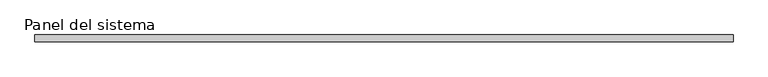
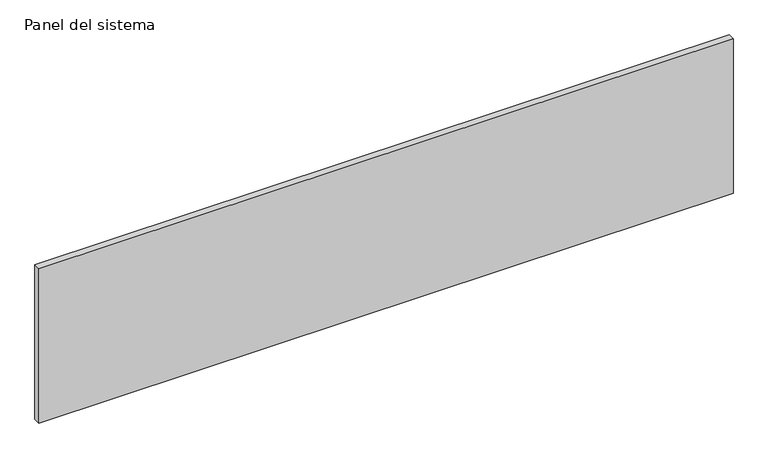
"""IFC4 building model written with IfcOpenShell, lengths in millimetres: plate geometry, Panel del sistema : HIANSA - CHAPA PERFILADA CUBIERTA - MT42 Hor."""

import ifcopenshell
import ifcopenshell.guid

model = None  # the IFC model being written
_history = None  # IfcOwnerHistory: only IFC2X3 demands one
_inside = {}  # id of a spatial element -> (the spatial element, [elements in it])
_under = {}  # id of a project, library or spatial element -> (it, [spatial elements below it])
_declared = {}  # id of a project -> (the project, [libraries it declares])
_typed = {}  # id of a type object -> (the type object, [elements of that type])
_made_of = {}  # id of a material, layer set ... -> (it, [elements and type objects made of it])


def new_model(schema):
    """Start an empty IFC model of exactly this schema.

    Asked for "IFC4X3", IfcOpenShell would pick the latest addendum, in which some entities
    have other attributes; the version numbers below select the first issue.
    IFC2X3 requires an IfcOwnerHistory on every rooted entity: one is made here for all.
    """
    global model, _history
    if schema == "IFC4X3":
        model = ifcopenshell.file(schema_version=(4, 3, 0, 0))
    else:
        model = ifcopenshell.file(schema=schema)
    _inside.clear()
    _under.clear()
    _declared.clear()
    _typed.clear()
    _made_of.clear()
    _history = None
    if model.schema == "IFC2X3":
        org = make("IfcOrganization", Name="unknown")
        user = make(
            "IfcPersonAndOrganization",
            ThePerson=make("IfcPerson", FamilyName="unknown"),
            TheOrganization=org,
        )
        app = make(
            "IfcApplication",
            ApplicationDeveloper=org,
            Version="unknown",
            ApplicationFullName="unknown",
            ApplicationIdentifier="unknown",
        )
        _history = make(
            "IfcOwnerHistory",
            OwningUser=user,
            OwningApplication=app,
            ChangeAction="ADDED",
            CreationDate=0,
        )
    return model


def make(cls, **values):
    """One entity of the class cls with the attributes given. An attribute that is None is left unset."""
    return model.create_entity(
        cls, **{name: value for name, value in values.items() if value is not None}
    )


def rooted(cls, **values):
    """An entity with a GlobalId (a new one), such as an element, a storey or a relation."""
    return make(cls, GlobalId=ifcopenshell.guid.new(), OwnerHistory=_history, **values)


def si_unit(unit_type, name, prefix=None):
    """IfcSIUnit, for example si_unit("LENGTHUNIT", "METRE", prefix="MILLI")."""
    return make("IfcSIUnit", UnitType=unit_type, Prefix=prefix, Name=name)


def assignment(units):
    """IfcUnitAssignment: the units of a project."""
    return None if units is None else make("IfcUnitAssignment", Units=units)


def point(xyz):
    """IfcCartesianPoint."""
    return None if xyz is None else make("IfcCartesianPoint", Coordinates=xyz)


def direction(xyz):
    """IfcDirection."""
    return None if xyz is None else make("IfcDirection", DirectionRatios=xyz)


def frame(location, z_axis=None, x_axis=None):
    """IfcAxis2Placement3D, a coordinate frame: its origin and axes. An axis left out is left unset."""
    return make(
        "IfcAxis2Placement3D",
        Location=point(location),
        Axis=direction(z_axis),
        RefDirection=direction(x_axis),
    )


def origin():
    """The frame at (0, 0, 0) with its axes left unset."""
    return frame((0.0, 0.0, 0.0))


def origin_with_axes():
    """The frame at (0, 0, 0) with the z axis (0, 0, 1) and the x axis (1, 0, 0) written out."""
    return frame((0.0, 0.0, 0.0), z_axis=(0.0, 0.0, 1.0), x_axis=(1.0, 0.0, 0.0))


def place(relative_to, where):
    """IfcLocalPlacement: puts the frame where relative to a parent placement (None: the world)."""
    return make(
        "IfcLocalPlacement", PlacementRelTo=relative_to, RelativePlacement=where
    )


def context(
    kind, dimensions, precision=None, world=None, true_north=None, identifier=None
):
    """IfcGeometricRepresentationContext, for example the 3D "Model" context."""
    return make(
        "IfcGeometricRepresentationContext",
        ContextIdentifier=identifier,
        ContextType=kind,
        CoordinateSpaceDimension=dimensions,
        Precision=precision,
        WorldCoordinateSystem=world,
        TrueNorth=true_north,
    )


def project(units=None, contexts=None):
    """IfcProject with its units and contexts."""
    return rooted(
        "IfcProject",
        Name="project",
        RepresentationContexts=contexts,
        UnitsInContext=assignment(units),
    )


def spatial(cls, under=None, at=None, **own):
    """A site, building, storey or space (cls), placed at a placement, below another one or the project."""
    s = rooted(cls, ObjectPlacement=at, **own)
    if under is not None:
        _under.setdefault(under.id(), (under, []))[1].append(s)
    return s


def polyline(points):
    """IfcPolyline through the points."""
    return make("IfcPolyline", Points=[point(p) for p in points])


def outline(outer, holes=None, kind="AREA"):
    """IfcArbitraryClosedProfileDef: a profile drawn as a closed curve; with holes, ...WithVoids."""
    if holes is None:
        return make("IfcArbitraryClosedProfileDef", ProfileType=kind, OuterCurve=outer)
    return make(
        "IfcArbitraryProfileDefWithVoids",
        ProfileType=kind,
        OuterCurve=outer,
        InnerCurves=holes,
    )


def extrude(swept, where, along, depth):
    """IfcExtrudedAreaSolid: the profile swept, set in the frame where, extruded along a direction by depth."""
    return make(
        "IfcExtrudedAreaSolid",
        SweptArea=swept,
        Position=where,
        ExtrudedDirection=direction(along),
        Depth=depth,
    )


def shape(context_of_items, identifier, shape_type, items):
    """IfcShapeRepresentation: the items that make up one representation, for example the "Body"."""
    return make(
        "IfcShapeRepresentation",
        ContextOfItems=context_of_items,
        RepresentationIdentifier=identifier,
        RepresentationType=shape_type,
        Items=items,
    )


def source(mapping_origin, context_of_items, identifier, shape_type, items):
    """IfcRepresentationMap: a shape defined once, which mapped items show again and again."""
    return make(
        "IfcRepresentationMap",
        MappingOrigin=mapping_origin,
        MappedRepresentation=shape(context_of_items, identifier, shape_type, items),
    )


def transform(
    local_origin,
    x_axis=None,
    y_axis=None,
    z_axis=None,
    scale=None,
    scale2=None,
    scale3=None,
    uniform=True,
):
    """IfcCartesianTransformationOperator3D, or its non-uniform kind. x_axis, y_axis, z_axis: its Axis1, 2, 3."""
    if uniform:
        return make(
            "IfcCartesianTransformationOperator3D",
            Axis1=direction(x_axis),
            Axis2=direction(y_axis),
            LocalOrigin=point(local_origin),
            Scale=scale,
            Axis3=direction(z_axis),
        )
    return make(
        "IfcCartesianTransformationOperator3DnonUniform",
        Axis1=direction(x_axis),
        Axis2=direction(y_axis),
        LocalOrigin=point(local_origin),
        Scale=scale,
        Axis3=direction(z_axis),
        Scale2=scale2,
        Scale3=scale3,
    )


def mapped(mapping_source, mapping_target):
    """IfcMappedItem: shows the shape of a source again, moved by a transform."""
    return make(
        "IfcMappedItem", MappingSource=mapping_source, MappingTarget=mapping_target
    )


def made_of(thing, what):
    """Note that an element or type object is made of a material, layer set ...; save() writes the relation."""
    if what is not None:
        _made_of.setdefault(what.id(), (what, []))[1].append(thing)
    return thing


def element(
    cls,
    number,
    at=None,
    inside=None,
    cuts=None,
    type_object=None,
    material=None,
    context=None,
    identifier="Body",
    shape_type=None,
    held_by="IfcProductDefinitionShape",
    body=None,
    shapes=None,
    **own,
):
    """One element of the class cls, such as IfcWall. Its Tag is "e" and its number.

    at: its placement. inside: the storey or other place that contains it. cuts: it is an
    opening in that element (IfcRelVoidsElement). A single representation is given by context,
    identifier, shape_type and body (its items); several are given by shapes. held_by: the class
    of the entity that holds the representations. save() writes the other relations.
    """
    e = rooted(cls, Tag="e%d" % number, ObjectPlacement=at, **own)
    if body is not None:
        shapes = [shape(context, identifier, shape_type, body)]
    if shapes is not None:
        e.Representation = make(held_by, Representations=shapes)
    if inside is not None:
        _inside.setdefault(inside.id(), (inside, []))[1].append(e)
    if cuts is not None:
        rooted(
            "IfcRelVoidsElement", RelatingBuildingElement=cuts, RelatedOpeningElement=e
        )
    if type_object is not None:
        _typed.setdefault(type_object.id(), (type_object, []))[1].append(e)
    return made_of(e, material)


def aggregate(whole, parts):
    """IfcRelAggregates: a whole, such as a stair, and the parts it consists of."""
    return rooted("IfcRelAggregates", RelatingObject=whole, RelatedObjects=parts)


def save(model, path):
    """Write the relations noted so far, then the file.

    IfcRelAggregates (storeys below a building ...), IfcRelContainedInSpatialStructure (elements
    in a storey), IfcRelDefinesByType, IfcRelAssociatesMaterial and IfcRelDeclares: one each for
    every whole, place, type object, material and project.
    """
    for whole, parts in _under.values():
        aggregate(whole, parts)
    for where, things in _inside.values():
        rooted(
            "IfcRelContainedInSpatialStructure",
            RelatedElements=things,
            RelatingStructure=where,
        )
    for kind, things in _typed.values():
        rooted("IfcRelDefinesByType", RelatedObjects=things, RelatingType=kind)
    for what, things in _made_of.values():
        rooted("IfcRelAssociatesMaterial", RelatedObjects=things, RelatingMaterial=what)
    for by, libraries in _declared.values():
        rooted("IfcRelDeclares", RelatingContext=by, RelatedDefinitions=libraries)
    model.write(path)


def panel_del_sistema_d2d792b8(model_context):
    return source(origin(), model_context, "Body", "SweptSolid", [
        extrude(outline(polyline([(2128.0, -42.0), (-2128.0, -42.0), (-2128.0, 0.0), (2128.0, 0.0), (2128.0, -42.0)])), origin_with_axes(), (0.0, 0.0, 1.0), 1000.0),
    ])


if __name__ == "__main__":
    model = new_model("IFC4")
    model_context = context("Model", 3, world=origin())
    ifc_project = project(units=[si_unit("LENGTHUNIT", "METRE", prefix="MILLI")], contexts=[model_context])
    site = spatial("IfcSite", under=ifc_project)
    building = spatial("IfcBuilding", under=site)
    placement = place(None, origin())
    panel_del_sistema_shape = panel_del_sistema_d2d792b8(model_context)
    element("IfcPlate", 1, ObjectType="Panel del sistema : HIANSA - CHAPA PERFILADA CUBIERTA - MT42 Hor", at=placement, inside=building, context=model_context, shape_type="MappedRepresentation", body=[
        mapped(panel_del_sistema_shape, transform((0.0, 0.0, 0.0), x_axis=(1.0, 0.0, 0.0), y_axis=(0.0, 1.0, 0.0), z_axis=(0.0, 0.0, 1.0))),
    ])
    save(model, "model.ifc")
